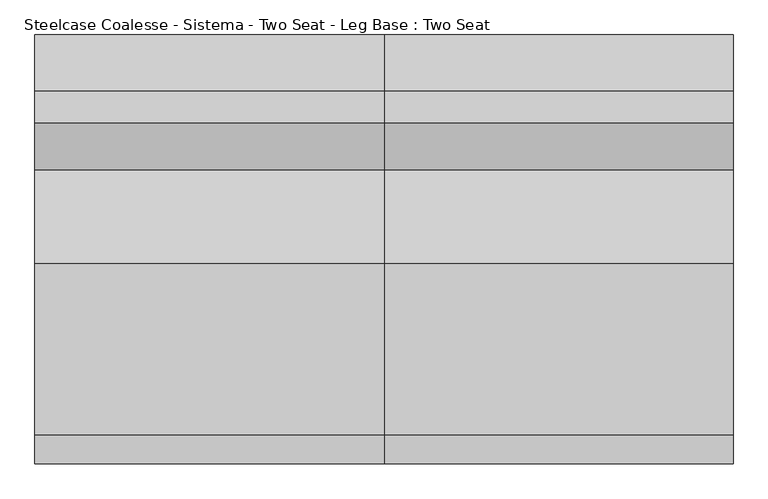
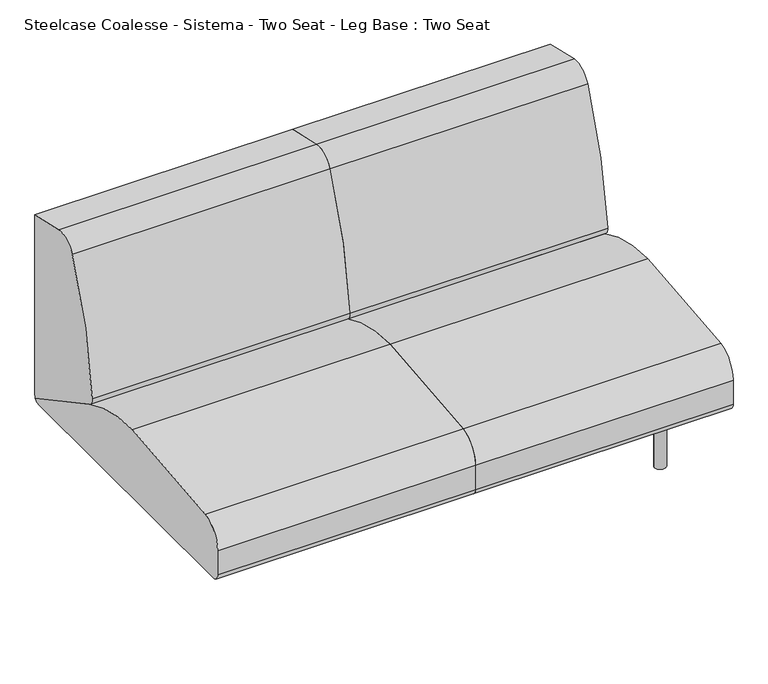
"""IFC4 building model written with IfcOpenShell, lengths in millimetres: furniture geometry, Steelcase Coalesse - Sistema - Two Seat - Leg Base : Two Seat."""

from ifc_helpers import new_model, si_unit, point, frame, frame_2d, origin, origin_with_axes, place, context, project, spatial, polyline, circle_curve, trimmed, segment, composite_curve, outline, extrude, source, transform, mapped, element, save


def steelcase_coalesse_sistema_two_seat_leg_base_two_seat_1eb522da(model_context):
    return source(origin(), model_context, "Body", "SweptSolid", [
        extrude(outline(composite_curve([segment(trimmed(circle_curve(frame_2d((989.1765227, 335.9943389)), 6.096), [point((995.2725227, 335.9943389))], [point((983.0805227, 335.9943389))], False, "CARTESIAN"), True, "CONTINUOUS"), segment(trimmed(circle_curve(frame_2d((989.1765227, 335.9943389)), 6.096), [point((983.0805227, 335.9943389))], [point((995.2725227, 335.9943389))], False, "CARTESIAN"), True, "CONTINUOUS")], self_intersect=False)), origin_with_axes(), (0.0, 0.0, 1.0), 4.3662291),
        extrude(outline(composite_curve([segment(trimmed(circle_curve(frame_2d((989.1765227, -327.2630889)), 6.096), [point((995.2725227, -327.2630889))], [point((983.0805227, -327.2630889))], False, "CARTESIAN"), True, "CONTINUOUS"), segment(trimmed(circle_curve(frame_2d((989.1765227, -327.2630889)), 6.096), [point((983.0805227, -327.2630889))], [point((995.2725227, -327.2630889))], False, "CARTESIAN"), True, "CONTINUOUS")], self_intersect=False)), origin_with_axes(), (0.0, 0.0, 1.0), 4.3662291),
        extrude(outline(composite_curve([segment(polyline([(157.0399209, 1001.756375), (201.7356243, 1001.756375)]), True, "CONTINUOUS"), segment(trimmed(circle_curve(frame_2d((201.7356243, 998.708375)), 3.048), [point((201.7356243, 1001.756375))], [point((204.7836243, 998.708375))], False, "CARTESIAN"), True, "CONTINUOUS"), segment(polyline([(204.7836243, 998.708375), (204.7836243, 979.366199)]), True, "CONTINUOUS"), segment(trimmed(circle_curve(frame_2d((201.7356243, 979.366199)), 3.048), [point((204.7836243, 979.366199))], [point((201.7356243, 976.318199))], False, "CARTESIAN"), True, "CONTINUOUS"), segment(polyline([(201.7356243, 976.318199), (157.1249936, 976.318199)]), True, "CONTINUOUS"), segment(trimmed(circle_curve(frame_2d((157.1249936, 979.4512718)), 3.1330728), [point((157.1249936, 976.318199))], [point((153.9919209, 979.4512718))], False, "CARTESIAN"), True, "CONTINUOUS"), segment(polyline([(153.9919209, 979.4512718), (153.9919209, 998.708375)]), True, "CONTINUOUS"), segment(trimmed(circle_curve(frame_2d((157.0399209, 998.708375)), 3.048), [point((153.9919209, 998.708375))], [point((157.0399209, 1001.756375))], False, "CARTESIAN"), True, "CONTINUOUS")], self_intersect=False)), frame((0.0, 222.3519802, 0.0), z_axis=(0.0, 1.0, 0.0), x_axis=(0.0, 0.0, 1.0)), (0.0, 0.0, 1.0), 92.6273161),
        extrude(outline(composite_curve([segment(polyline([(157.0399209, 1001.756375), (201.7356243, 1001.756375)]), True, "CONTINUOUS"), segment(trimmed(circle_curve(frame_2d((201.7356243, 998.708375)), 3.048), [point((201.7356243, 1001.756375))], [point((204.7836243, 998.708375))], False, "CARTESIAN"), True, "CONTINUOUS"), segment(polyline([(204.7836243, 998.708375), (204.7836243, 979.366199)]), True, "CONTINUOUS"), segment(trimmed(circle_curve(frame_2d((201.7356243, 979.366199)), 3.048), [point((204.7836243, 979.366199))], [point((201.7356243, 976.318199))], False, "CARTESIAN"), True, "CONTINUOUS"), segment(polyline([(201.7356243, 976.318199), (157.1249936, 976.318199)]), True, "CONTINUOUS"), segment(trimmed(circle_curve(frame_2d((157.1249936, 979.4512718)), 3.1330728), [point((157.1249936, 976.318199))], [point((153.9919209, 979.4512718))], False, "CARTESIAN"), True, "CONTINUOUS"), segment(polyline([(153.9919209, 979.4512718), (153.9919209, 998.708375)]), True, "CONTINUOUS"), segment(trimmed(circle_curve(frame_2d((157.0399209, 998.708375)), 3.048), [point((153.9919209, 998.708375))], [point((157.0399209, 1001.756375))], False, "CARTESIAN"), True, "CONTINUOUS")], self_intersect=False)), frame((0.0, -314.9792963, 0.0), z_axis=(0.0, 1.0, 0.0), x_axis=(0.0, 0.0, 1.0)), (0.0, 0.0, 1.0), 92.6273161),
        extrude(outline(composite_curve([segment(trimmed(circle_curve(frame_2d((176.3356606, 966.5259944)), 3.048), [point((179.3836606, 966.5259944))], [point((176.3356606, 963.4779944))], False, "CARTESIAN"), True, "CONTINUOUS"), segment(polyline([(176.3356606, 963.4779944), (157.0399209, 963.4779944)]), True, "CONTINUOUS"), segment(trimmed(circle_curve(frame_2d((157.0399209, 966.5259944)), 3.048), [point((157.0399209, 963.4779944))], [point((153.9919209, 966.5259944))], False, "CARTESIAN"), True, "CONTINUOUS"), segment(polyline([(153.9919209, 966.5259944), (153.9919209, 1011.2135501)]), True, "CONTINUOUS"), segment(trimmed(circle_curve(frame_2d((157.056462, 1011.2135501)), 3.0645412), [point((153.9919209, 1011.2135501))], [point((157.056462, 1014.2780913))], False, "CARTESIAN"), True, "CONTINUOUS"), segment(polyline([(157.056462, 1014.2780913), (176.3356606, 1014.2780913)]), True, "CONTINUOUS"), segment(trimmed(circle_curve(frame_2d((176.3356606, 1011.2300913)), 3.048), [point((176.3356606, 1014.2780913))], [point((179.3836606, 1011.2300913))], False, "CARTESIAN"), True, "CONTINUOUS"), segment(polyline([(179.3836606, 1011.2300913), (179.3836606, 966.5259944)]), True, "CONTINUOUS")], self_intersect=False)), frame((0.0, -222.3519802, 0.0), z_axis=(0.0, 1.0, 0.0), x_axis=(0.0, 0.0, 1.0)), (0.0, 0.0, 1.0), 444.7039604),
        extrude(outline(composite_curve([segment(trimmed(circle_curve(frame_2d((989.1765227, 332.3095741)), 16.51), [point((1005.6865227, 332.3095741))], [point((972.6665227, 332.3095741))], False, "CARTESIAN"), True, "CONTINUOUS"), segment(trimmed(circle_curve(frame_2d((989.1765227, 332.3095741)), 16.51), [point((972.6665227, 332.3095741))], [point((1005.6865227, 332.3095741))], False, "CARTESIAN"), True, "CONTINUOUS")], self_intersect=False)), frame((0.0, 0.0, 4.3662291), z_axis=(0.0, 0.0, 1.0), x_axis=(1.0, 0.0, 0.0)), (0.0, 0.0, 1.0), 200.1037709),
        extrude(outline(composite_curve([segment(trimmed(circle_curve(frame_2d((988.7796477, -327.5470741)), 16.51), [point((1005.2896477, -327.5470741))], [point((972.2696477, -327.5470741))], False, "CARTESIAN"), True, "CONTINUOUS"), segment(trimmed(circle_curve(frame_2d((988.7796477, -327.5470741)), 16.51), [point((972.2696477, -327.5470741))], [point((1005.2896477, -327.5470741))], False, "CARTESIAN"), True, "CONTINUOUS")], self_intersect=False)), frame((0.0, 0.0, 4.3662291), z_axis=(0.0, 0.0, 1.0), x_axis=(1.0, 0.0, 0.0)), (0.0, 0.0, 1.0), 200.1037709),
        extrude(outline(composite_curve([segment(polyline([(459.4795619, 775.8234697), (459.4795619, 228.1929806)]), True, "CONTINUOUS"), segment(trimmed(circle_curve(frame_2d((191.495971, 228.1929806)), 267.983591), [point((459.4795619, 228.1929806))], [point((458.9860775, 211.937276))], False, "CARTESIAN"), True, "CONTINUOUS"), segment(polyline([(458.9860775, 211.937276), (183.8457951, 360.6719742)]), True, "CONTINUOUS"), segment(trimmed(circle_curve(frame_2d((195.9245701, 383.0161724)), 25.4), [point((183.8457951, 360.6719742))], [point((170.6161698, 385.1713698))], False, "CARTESIAN"), True, "CONTINUOUS"), segment(trimmed(circle_curve(frame_2d((1327.5544182, 286.6495247)), 1161.1256023), [point((170.6161698, 385.1713698))], [point((271.1088001, 768.4537592))], False, "CARTESIAN"), True, "CONTINUOUS"), segment(trimmed(circle_curve(frame_2d((326.5730192, 743.158661)), 60.96), [point((271.1088001, 768.4537592))], [point((339.9143278, 802.6408523))], False, "CARTESIAN"), True, "CONTINUOUS"), segment(polyline([(339.9143278, 802.6408523), (459.4795619, 775.8234697)]), True, "CONTINUOUS")], self_intersect=False)), frame((-374.8034773, 0.0, 0.0), z_axis=(1.0, 0.0, 0.0), x_axis=(0.0, 1.0, 0.0)), (0.0, 0.0, 1.0), 749.3),
        extrude(outline(composite_curve([segment(trimmed(circle_curve(frame_2d((-438.9184381, 226.822)), 22.352), [point((-438.9184381, 204.47))], [point((-461.2704381, 226.822))], False, "CARTESIAN"), True, "CONTINUOUS"), segment(polyline([(-461.2704381, 226.822), (-461.2704381, 301.4421993)]), True, "CONTINUOUS"), segment(trimmed(circle_curve(frame_2d((-385.0704381, 301.4421993)), 76.2), [point((-461.2704381, 301.4421993))], [point((-398.9277015, 376.3716077))], False, "CARTESIAN"), True, "CONTINUOUS"), segment(trimmed(circle_curve(frame_2d((2.2103559, -1792.6740646)), 2205.8265729), [point((-398.9277015, 376.3716077))], [point((-31.1968175, 412.8995185))], False, "CARTESIAN"), True, "CONTINUOUS"), segment(trimmed(circle_curve(frame_2d((-24.5128424, -28.3829182)), 441.333054), [point((-31.1968175, 412.8995185))], [point((184.5757008, 360.2774035))], False, "CARTESIAN"), True, "CONTINUOUS"), segment(polyline([(184.5757008, 360.2774035), (458.9860775, 211.937276)]), True, "CONTINUOUS"), segment(trimmed(circle_curve(frame_2d((442.3266309, 226.7871991)), 22.3171991), [point((458.9860775, 211.937276))], [point((442.3266309, 204.47))], False, "CARTESIAN"), True, "CONTINUOUS"), segment(polyline([(442.3266309, 204.47), (-438.9184381, 204.47)]), True, "CONTINUOUS")], self_intersect=False)), frame((-374.8034773, 0.0, 0.0), z_axis=(1.0, 0.0, 0.0), x_axis=(0.0, 1.0, 0.0)), (0.0, 0.0, 1.0), 749.3),
        extrude(outline(composite_curve([segment(polyline([(459.4795619, 775.8234697), (459.4795619, 228.1929806)]), True, "CONTINUOUS"), segment(trimmed(circle_curve(frame_2d((191.495971, 228.1929806)), 267.983591), [point((459.4795619, 228.1929806))], [point((458.9860775, 211.937276))], False, "CARTESIAN"), True, "CONTINUOUS"), segment(polyline([(458.9860775, 211.937276), (183.8457951, 360.6719742)]), True, "CONTINUOUS"), segment(trimmed(circle_curve(frame_2d((195.9245701, 383.0161724)), 25.4), [point((183.8457951, 360.6719742))], [point((170.6161698, 385.1713698))], False, "CARTESIAN"), True, "CONTINUOUS"), segment(trimmed(circle_curve(frame_2d((1327.5544182, 286.6495247)), 1161.1256023), [point((170.6161698, 385.1713698))], [point((271.1088001, 768.4537592))], False, "CARTESIAN"), True, "CONTINUOUS"), segment(trimmed(circle_curve(frame_2d((326.5730192, 743.158661)), 60.96), [point((271.1088001, 768.4537592))], [point((339.9143278, 802.6408523))], False, "CARTESIAN"), True, "CONTINUOUS"), segment(polyline([(339.9143278, 802.6408523), (459.4795619, 775.8234697)]), True, "CONTINUOUS")], self_intersect=False)), frame((374.4965227, 0.0, 0.0), z_axis=(1.0, 0.0, 0.0), x_axis=(0.0, 1.0, 0.0)), (0.0, 0.0, 1.0), 749.3),
        extrude(outline(composite_curve([segment(trimmed(circle_curve(frame_2d((-438.9184381, 226.822)), 22.352), [point((-438.9184381, 204.47))], [point((-461.2704381, 226.822))], False, "CARTESIAN"), True, "CONTINUOUS"), segment(polyline([(-461.2704381, 226.822), (-461.2704381, 301.4421993)]), True, "CONTINUOUS"), segment(trimmed(circle_curve(frame_2d((-385.0704381, 301.4421993)), 76.2), [point((-461.2704381, 301.4421993))], [point((-398.9277015, 376.3716077))], False, "CARTESIAN"), True, "CONTINUOUS"), segment(trimmed(circle_curve(frame_2d((2.2103559, -1792.6740646)), 2205.8265729), [point((-398.9277015, 376.3716077))], [point((-31.1968175, 412.8995185))], False, "CARTESIAN"), True, "CONTINUOUS"), segment(trimmed(circle_curve(frame_2d((-24.5128424, -28.3829182)), 441.333054), [point((-31.1968175, 412.8995185))], [point((184.5757008, 360.2774035))], False, "CARTESIAN"), True, "CONTINUOUS"), segment(polyline([(184.5757008, 360.2774035), (458.9860775, 211.937276)]), True, "CONTINUOUS"), segment(trimmed(circle_curve(frame_2d((442.3266309, 226.7871991)), 22.3171991), [point((458.9860775, 211.937276))], [point((442.3266309, 204.47))], False, "CARTESIAN"), True, "CONTINUOUS"), segment(polyline([(442.3266309, 204.47), (-438.9184381, 204.47)]), True, "CONTINUOUS")], self_intersect=False)), frame((374.4965227, 0.0, 0.0), z_axis=(1.0, 0.0, 0.0), x_axis=(0.0, 1.0, 0.0)), (0.0, 0.0, 1.0), 749.3),
    ])


if __name__ == "__main__":
    model = new_model("IFC4")
    model_context = context("Model", 3, world=origin())
    ifc_project = project(units=[si_unit("LENGTHUNIT", "METRE", prefix="MILLI")], contexts=[model_context])
    site = spatial("IfcSite", under=ifc_project)
    building = spatial("IfcBuilding", under=site)
    placement = place(None, origin())
    steelcase_coalesse_sistema_two_seat_leg_base_two_seat_shape = steelcase_coalesse_sistema_two_seat_leg_base_two_seat_1eb522da(model_context)
    element("IfcFurniture", 1, ObjectType="Steelcase Coalesse - Sistema - Two Seat - Leg Base : Two Seat", at=placement, inside=building, context=model_context, shape_type="MappedRepresentation", body=[
        mapped(steelcase_coalesse_sistema_two_seat_leg_base_two_seat_shape, transform((0.0, 0.0, 0.0), x_axis=(1.0, 0.0, 0.0), y_axis=(0.0, 1.0, 0.0), z_axis=(0.0, 0.0, 1.0))),
    ])
    save(model, "model.ifc")
